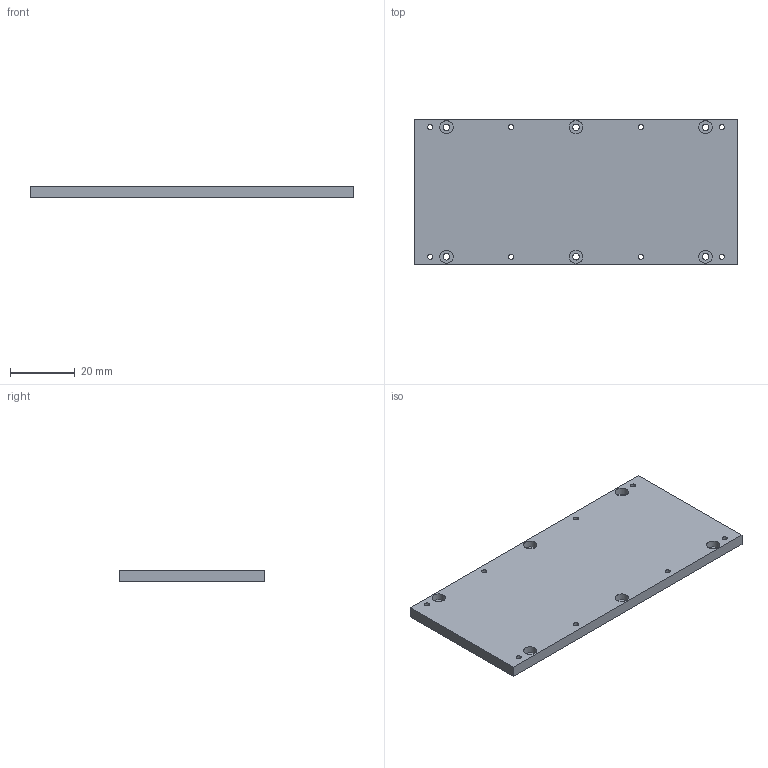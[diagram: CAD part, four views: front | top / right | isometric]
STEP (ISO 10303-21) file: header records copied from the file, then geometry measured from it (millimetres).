
FILE_DESCRIPTION(/* description */ ('','CAx-IF Rec.Pracs.---Representation and Presentation of Product Manufacturing Information (PMI)---4.0---2014-10-13'),/* implementation_level */ '2;1');
FILE_NAME(/* name */ 'a1_mini_platform_L2_edge_v3.step',/* time_stamp */ '2025-02-10T15:12:36+08:00',/* author */ (''),/* organization */ (''),/* preprocessor_version */ 'ST-DEVELOPER v20',/* originating_system */ 'Autodesk Translation Framework v13.20.0.188',/* authorisation */ '');
FILE_SCHEMA (('AP242_MANAGED_MODEL_BASED_3D_ENGINEERING_MIM_LF { 1 0 10303 442 1 1 4 }'));
Length unit declared in the file: millimetre
Products named in the file (1): a1_mini_platform_L2_edge
Bounding box: 100 x 45 x 3.5 mm (x, y, z)
Volume: 15494.9 mm3; surface area: 10304.9 mm2
Topology: 1 solids, 1 shells, 32 faces, 72 edges, 48 vertices
Faces by surface type: cylinder 20, plane 12
Full cylindrical faces by diameter (mm): 1.6 x8, 2 x6, 4.1 x6
Entity records: 1005 total; most frequent: DIRECTION 178, CARTESIAN_POINT 153, ORIENTED_EDGE 144, AXIS2_PLACEMENT_3D 73, EDGE_CURVE 72, EDGE_LOOP 66, VERTEX_POINT 48, CIRCLE 40
